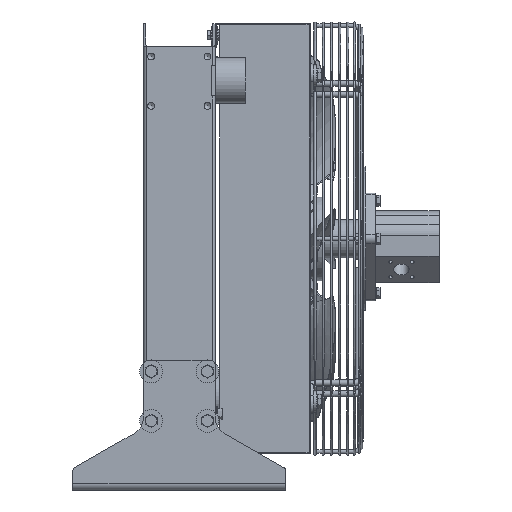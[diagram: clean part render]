
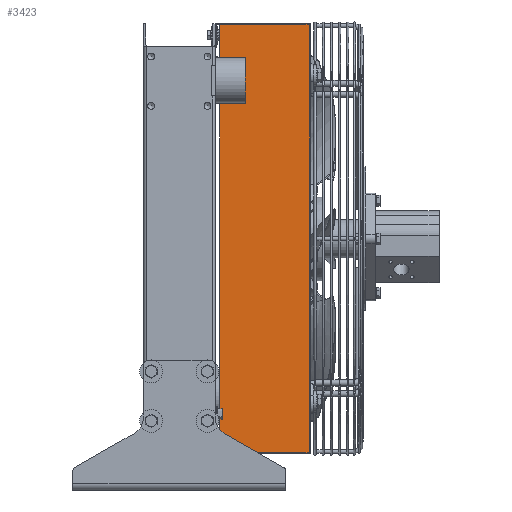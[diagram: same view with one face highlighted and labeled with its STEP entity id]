
A CAD part, left-side view. The second image highlights one B-rep face of the part: STEP entity #3423.
In plain terms, the highlighted planar face has unit normal (-1, 0, 0) as drawn and (0, -1, 0) by its records, which use the part's own axes.
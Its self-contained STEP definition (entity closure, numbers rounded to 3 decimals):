
#3423 = ADVANCED_FACE( '', ( #6596 ), #6597, .F. );
#6596 = FACE_OUTER_BOUND( '', #13524, .T. );
#6597 = PLANE( '', #13525 );
#13524 = EDGE_LOOP( '', ( #22564, #22565, #22566, #22567, #22568, #22569, #22570, #22571 ) );
#13525 = AXIS2_PLACEMENT_3D( '', #22572, #22573, #22574 );
#22564 = ORIENTED_EDGE( '', *, *, #26934, .F. );
#22565 = ORIENTED_EDGE( '', *, *, #27261, .T. );
#22566 = ORIENTED_EDGE( '', *, *, #28883, .T. );
#22567 = ORIENTED_EDGE( '', *, *, #28696, .T. );
#22568 = ORIENTED_EDGE( '', *, *, #28277, .F. );
#22569 = ORIENTED_EDGE( '', *, *, #28867, .T. );
#22570 = ORIENTED_EDGE( '', *, *, #27303, .T. );
#22571 = ORIENTED_EDGE( '', *, *, #28582, .F. );
#22572 = CARTESIAN_POINT( '', ( -282.5, -275.5, 125. ) );
#22573 = DIRECTION( '', ( 0., 1., 0. ) );
#22574 = DIRECTION( '', ( -1., 0., 0. ) );
#26934 = EDGE_CURVE( '', #30358, #30360, #30361, .T. );
#27261 = EDGE_CURVE( '', #30358, #30933, #30935, .T. );
#27303 = EDGE_CURVE( '', #31002, #31006, #31008, .T. );
#28277 = EDGE_CURVE( '', #32587, #32589, #32590, .T. );
#28582 = EDGE_CURVE( '', #30360, #31006, #33038, .T. );
#28696 = EDGE_CURVE( '', #33191, #32589, #33192, .T. );
#28867 = EDGE_CURVE( '', #32587, #31002, #33427, .T. );
#28883 = EDGE_CURVE( '', #30933, #33191, #33449, .T. );
#30358 = VERTEX_POINT( '', #36052 );
#30360 = VERTEX_POINT( '', #36055 );
#30361 = LINE( '', #36056, #36057 );
#30933 = VERTEX_POINT( '', #37599 );
#30935 = LINE( '', #37602, #37603 );
#31002 = VERTEX_POINT( '', #37884 );
#31006 = VERTEX_POINT( '', #37890 );
#31008 = LINE( '', #37893, #37894 );
#32587 = VERTEX_POINT( '', #41775 );
#32589 = VERTEX_POINT( '', #41778 );
#32590 = LINE( '', #41779, #41780 );
#33038 = LINE( '', #43285, #43286 );
#33191 = VERTEX_POINT( '', #43736 );
#33192 = LINE( '', #43737, #43738 );
#33427 = LINE( '', #44378, #44379 );
#33449 = LINE( '', #44524, #44525 );
#36052 = CARTESIAN_POINT( '', ( 281., -275.5, 125. ) );
#36055 = CARTESIAN_POINT( '', ( 282.5, -275.5, 125. ) );
#36056 = CARTESIAN_POINT( '', ( -282.5, -275.5, 125. ) );
#36057 = VECTOR( '', #47952, 1000. );
#37599 = CARTESIAN_POINT( '', ( 281., -275.5, 119. ) );
#37602 = CARTESIAN_POINT( '', ( 281., -275.5, 125. ) );
#37603 = VECTOR( '', #48333, 1000. );
#37884 = CARTESIAN_POINT( '', ( -282.5, -275.5, 0. ) );
#37890 = CARTESIAN_POINT( '', ( 282.5, -275.5, 0. ) );
#37893 = CARTESIAN_POINT( '', ( -282.5, -275.5, 0. ) );
#37894 = VECTOR( '', #48382, 1000. );
#41775 = CARTESIAN_POINT( '', ( -282.5, -275.5, 125. ) );
#41778 = CARTESIAN_POINT( '', ( -281., -275.5, 125. ) );
#41779 = CARTESIAN_POINT( '', ( -282.5, -275.5, 125. ) );
#41780 = VECTOR( '', #49446, 1000. );
#43285 = CARTESIAN_POINT( '', ( 282.5, -275.5, 125. ) );
#43286 = VECTOR( '', #49748, 1000. );
#43736 = CARTESIAN_POINT( '', ( -281., -275.5, 119. ) );
#43737 = CARTESIAN_POINT( '', ( -281., -275.5, 125. ) );
#43738 = VECTOR( '', #49843, 1000. );
#44378 = CARTESIAN_POINT( '', ( -282.5, -275.5, 125. ) );
#44379 = VECTOR( '', #49990, 1000. );
#44524 = CARTESIAN_POINT( '', ( -282.5, -275.5, 119. ) );
#44525 = VECTOR( '', #49997, 1000. );
#47952 = DIRECTION( '', ( 1., 0., 0. ) );
#48333 = DIRECTION( '', ( 0., 0., -1. ) );
#48382 = DIRECTION( '', ( 1., 0., 0. ) );
#49446 = DIRECTION( '', ( 1., 0., 0. ) );
#49748 = DIRECTION( '', ( 0., 0., -1. ) );
#49843 = DIRECTION( '', ( 0., 0., 1. ) );
#49990 = DIRECTION( '', ( 0., 0., -1. ) );
#49997 = DIRECTION( '', ( -1., 0., 0. ) );
